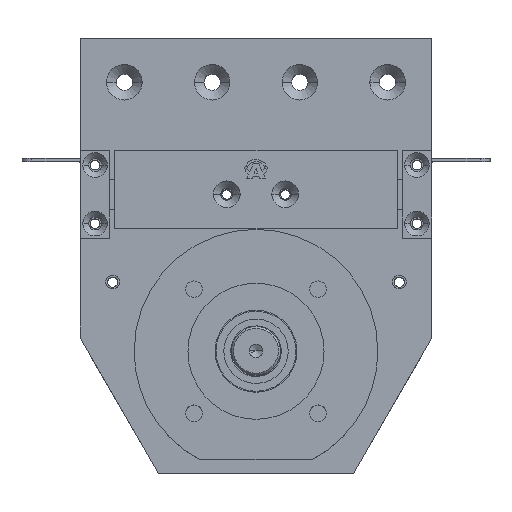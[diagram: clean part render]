
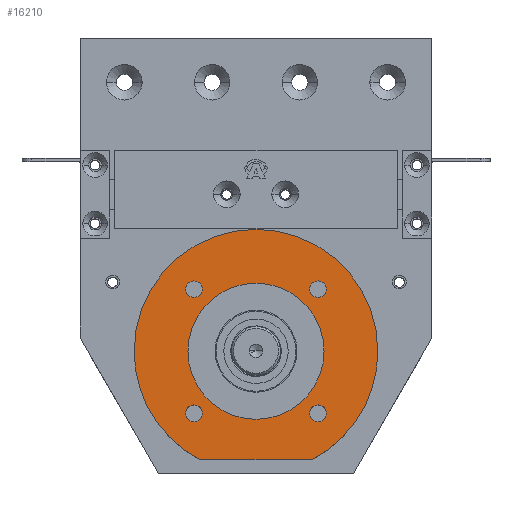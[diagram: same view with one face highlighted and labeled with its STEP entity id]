
A CAD part, top view. The second image highlights one B-rep face of the part: STEP entity #16210.
In plain terms, the highlighted planar face has unit normal (0, 0, 1) as drawn and (-1, 0, 0) by its records, which use the part's own axes.
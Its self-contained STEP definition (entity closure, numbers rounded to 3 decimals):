
#265 = DIRECTION ( 'NONE',  ( 1., 0., 0. ) ) ;
#381 = ORIENTED_EDGE ( 'NONE', *, *, #22552, .T. ) ;
#423 = ORIENTED_EDGE ( 'NONE', *, *, #15531, .T. ) ;
#436 = CARTESIAN_POINT ( 'NONE',  ( 2., 0., -62.5 ) ) ;
#698 = VERTEX_POINT ( 'NONE', #8233 ) ;
#721 = VERTEX_POINT ( 'NONE', #5303 ) ;
#856 = CIRCLE ( 'NONE', #19311, 62.5 ) ;
#899 = EDGE_LOOP ( 'NONE', ( #9958, #14965 ) ) ;
#944 = CIRCLE ( 'NONE', #18466, 4.25 ) ;
#1043 = CARTESIAN_POINT ( 'NONE',  ( 2., 31.82, 36.07 ) ) ;
#1300 = FACE_BOUND ( 'NONE', #5596, .T. ) ;
#1333 = ORIENTED_EDGE ( 'NONE', *, *, #18147, .T. ) ;
#1516 = CIRCLE ( 'NONE', #9856, 4.25 ) ;
#1545 = ORIENTED_EDGE ( 'NONE', *, *, #13523, .T. ) ;
#1752 = DIRECTION ( 'NONE',  ( -1., 0., 0. ) ) ;
#2007 = EDGE_CURVE ( 'NONE', #14707, #9752, #2672, .T. ) ;
#2129 = DIRECTION ( 'NONE',  ( -1., 0., 0. ) ) ;
#2437 = FACE_BOUND ( 'NONE', #899, .T. ) ;
#2620 = EDGE_CURVE ( 'NONE', #10116, #16750, #944, .T. ) ;
#2672 = LINE ( 'NONE', #16005, #10632 ) ;
#2694 = EDGE_CURVE ( 'NONE', #721, #698, #1516, .T. ) ;
#2989 = CARTESIAN_POINT ( 'NONE',  ( 2., -31.82, 36.07 ) ) ;
#3268 = DIRECTION ( 'NONE',  ( 0., 0., -1. ) ) ;
#3366 = CARTESIAN_POINT ( 'NONE',  ( 2., -55.5, -28.74 ) ) ;
#3588 = ORIENTED_EDGE ( 'NONE', *, *, #10323, .T. ) ;
#3825 = ORIENTED_EDGE ( 'NONE', *, *, #16964, .F. ) ;
#3980 = CARTESIAN_POINT ( 'NONE',  ( 2., 0., 34.9 ) ) ;
#4044 = VERTEX_POINT ( 'NONE', #9385 ) ;
#4168 = VERTEX_POINT ( 'NONE', #9774 ) ;
#4339 = CARTESIAN_POINT ( 'NONE',  ( 2., 31.82, -31.82 ) ) ;
#4634 = AXIS2_PLACEMENT_3D ( 'NONE', #11315, #18630, #20141 ) ;
#5303 = CARTESIAN_POINT ( 'NONE',  ( 2., 31.82, -27.57 ) ) ;
#5596 = EDGE_LOOP ( 'NONE', ( #10254, #11780 ) ) ;
#5635 = DIRECTION ( 'NONE',  ( 1., 0., 0. ) ) ;
#5771 = CIRCLE ( 'NONE', #20016, 4.25 ) ;
#5868 = VERTEX_POINT ( 'NONE', #3980 ) ;
#5956 = DIRECTION ( 'NONE',  ( 0., 0., 1. ) ) ;
#6070 = CARTESIAN_POINT ( 'NONE',  ( 2., 62.5, 0. ) ) ;
#6111 = CARTESIAN_POINT ( 'NONE',  ( 2., -55.5, 28.74 ) ) ;
#6160 = AXIS2_PLACEMENT_3D ( 'NONE', #9398, #14601, #16613 ) ;
#6165 = ORIENTED_EDGE ( 'NONE', *, *, #2007, .F. ) ;
#6266 = EDGE_CURVE ( 'NONE', #698, #721, #11721, .T. ) ;
#6306 = VERTEX_POINT ( 'NONE', #7694 ) ;
#7544 = DIRECTION ( 'NONE',  ( 0., 0., -1. ) ) ;
#7694 = CARTESIAN_POINT ( 'NONE',  ( 2., -31.82, -27.57 ) ) ;
#7866 = FACE_OUTER_BOUND ( 'NONE', #16873, .T. ) ;
#7906 = AXIS2_PLACEMENT_3D ( 'NONE', #9496, #20312, #9339 ) ;
#8233 = CARTESIAN_POINT ( 'NONE',  ( 2., 31.82, -36.07 ) ) ;
#8643 = DIRECTION ( 'NONE',  ( 0., 0., -1. ) ) ;
#8896 = VERTEX_POINT ( 'NONE', #436 ) ;
#8933 = CARTESIAN_POINT ( 'NONE',  ( 2., 0., -34.9 ) ) ;
#9047 = CARTESIAN_POINT ( 'NONE',  ( 2., -31.82, -31.82 ) ) ;
#9060 = DIRECTION ( 'NONE',  ( 0., 0., 1. ) ) ;
#9089 = CARTESIAN_POINT ( 'NONE',  ( 2., -31.82, 31.82 ) ) ;
#9339 = DIRECTION ( 'NONE',  ( 0., 0., 1. ) ) ;
#9385 = CARTESIAN_POINT ( 'NONE',  ( 2., -31.82, -36.07 ) ) ;
#9398 = CARTESIAN_POINT ( 'NONE',  ( 2., 0., 0. ) ) ;
#9496 = CARTESIAN_POINT ( 'NONE',  ( 2., 0., 0. ) ) ;
#9666 = DIRECTION ( 'NONE',  ( 1., 0., 0. ) ) ;
#9752 = VERTEX_POINT ( 'NONE', #3366 ) ;
#9774 = CARTESIAN_POINT ( 'NONE',  ( 2., 0., 62.5 ) ) ;
#9856 = AXIS2_PLACEMENT_3D ( 'NONE', #4339, #15269, #18632 ) ;
#9958 = ORIENTED_EDGE ( 'NONE', *, *, #6266, .T. ) ;
#10116 = VERTEX_POINT ( 'NONE', #17263 ) ;
#10254 = ORIENTED_EDGE ( 'NONE', *, *, #2620, .T. ) ;
#10323 = EDGE_CURVE ( 'NONE', #14707, #4168, #21596, .T. ) ;
#10524 = CIRCLE ( 'NONE', #4634, 4.25 ) ;
#10632 = VECTOR ( 'NONE', #8643, 1000. ) ;
#10789 = DIRECTION ( 'NONE',  ( 0., 0., -1. ) ) ;
#10957 = EDGE_LOOP ( 'NONE', ( #3825, #22554 ) ) ;
#11315 = CARTESIAN_POINT ( 'NONE',  ( 2., -31.82, 31.82 ) ) ;
#11636 = ORIENTED_EDGE ( 'NONE', *, *, #23128, .T. ) ;
#11721 = CIRCLE ( 'NONE', #15609, 4.25 ) ;
#11780 = ORIENTED_EDGE ( 'NONE', *, *, #13794, .T. ) ;
#11861 = AXIS2_PLACEMENT_3D ( 'NONE', #13044, #2129, #5956 ) ;
#12016 = ORIENTED_EDGE ( 'NONE', *, *, #19079, .T. ) ;
#13026 = CIRCLE ( 'NONE', #23041, 4.25 ) ;
#13044 = CARTESIAN_POINT ( 'NONE',  ( 2., 0., 0. ) ) ;
#13264 = CARTESIAN_POINT ( 'NONE',  ( 2., 31.82, 31.82 ) ) ;
#13321 = PLANE ( 'NONE',  #20454 ) ;
#13394 = DIRECTION ( 'NONE',  ( 0., 0., -1. ) ) ;
#13523 = EDGE_CURVE ( 'NONE', #4168, #8896, #856, .T. ) ;
#13794 = EDGE_CURVE ( 'NONE', #16750, #10116, #10524, .T. ) ;
#14095 = CIRCLE ( 'NONE', #7906, 34.9 ) ;
#14226 = EDGE_LOOP ( 'NONE', ( #423, #381 ) ) ;
#14601 = DIRECTION ( 'NONE',  ( -1., 0., 0. ) ) ;
#14707 = VERTEX_POINT ( 'NONE', #6111 ) ;
#14965 = ORIENTED_EDGE ( 'NONE', *, *, #2694, .T. ) ;
#15206 = CIRCLE ( 'NONE', #17700, 4.25 ) ;
#15269 = DIRECTION ( 'NONE',  ( 1., 0., 0. ) ) ;
#15531 = EDGE_CURVE ( 'NONE', #20203, #23365, #13026, .T. ) ;
#15609 = AXIS2_PLACEMENT_3D ( 'NONE', #22522, #9666, #16974 ) ;
#16005 = CARTESIAN_POINT ( 'NONE',  ( 2., -55.5, 28.74 ) ) ;
#16158 = FACE_BOUND ( 'NONE', #10957, .T. ) ;
#16210 = ADVANCED_FACE ( 'NONE', ( #19888, #1300, #20152, #2437, #16158, #7866 ), #13321, .F. ) ;
#16315 = CARTESIAN_POINT ( 'NONE',  ( 2., 31.82, 27.57 ) ) ;
#16613 = DIRECTION ( 'NONE',  ( 0., 0., 1. ) ) ;
#16750 = VERTEX_POINT ( 'NONE', #2989 ) ;
#16873 = EDGE_LOOP ( 'NONE', ( #3588, #1545, #11636, #6165 ) ) ;
#16964 = EDGE_CURVE ( 'NONE', #5868, #22975, #14095, .T. ) ;
#16974 = DIRECTION ( 'NONE',  ( 0., 0., -1. ) ) ;
#17263 = CARTESIAN_POINT ( 'NONE',  ( 2., -31.82, 27.57 ) ) ;
#17495 = CIRCLE ( 'NONE', #11861, 34.9 ) ;
#17700 = AXIS2_PLACEMENT_3D ( 'NONE', #18506, #5635, #10789 ) ;
#17781 = CARTESIAN_POINT ( 'NONE',  ( 2., 0., 0. ) ) ;
#18044 = CARTESIAN_POINT ( 'NONE',  ( 2., 31.82, 31.82 ) ) ;
#18147 = EDGE_CURVE ( 'NONE', #6306, #4044, #15206, .T. ) ;
#18210 = EDGE_CURVE ( 'NONE', #22975, #5868, #17495, .T. ) ;
#18466 = AXIS2_PLACEMENT_3D ( 'NONE', #9089, #265, #18558 ) ;
#18489 = DIRECTION ( 'NONE',  ( 0., 0., -1. ) ) ;
#18506 = CARTESIAN_POINT ( 'NONE',  ( 2., -31.82, -31.82 ) ) ;
#18558 = DIRECTION ( 'NONE',  ( 0., 0., -1. ) ) ;
#18630 = DIRECTION ( 'NONE',  ( 1., 0., 0. ) ) ;
#18632 = DIRECTION ( 'NONE',  ( 0., 0., -1. ) ) ;
#18803 = DIRECTION ( 'NONE',  ( 1., 0., 0. ) ) ;
#18855 = DIRECTION ( 'NONE',  ( 1., 0., 0. ) ) ;
#19079 = EDGE_CURVE ( 'NONE', #4044, #6306, #5771, .T. ) ;
#19311 = AXIS2_PLACEMENT_3D ( 'NONE', #17781, #23390, #19627 ) ;
#19512 = EDGE_LOOP ( 'NONE', ( #12016, #1333 ) ) ;
#19573 = CIRCLE ( 'NONE', #6160, 62.5 ) ;
#19627 = DIRECTION ( 'NONE',  ( 0., 0., 1. ) ) ;
#19888 = FACE_BOUND ( 'NONE', #19512, .T. ) ;
#20016 = AXIS2_PLACEMENT_3D ( 'NONE', #9047, #22038, #7544 ) ;
#20141 = DIRECTION ( 'NONE',  ( 0., 0., -1. ) ) ;
#20152 = FACE_BOUND ( 'NONE', #14226, .T. ) ;
#20203 = VERTEX_POINT ( 'NONE', #16315 ) ;
#20312 = DIRECTION ( 'NONE',  ( -1., 0., 0. ) ) ;
#20454 = AXIS2_PLACEMENT_3D ( 'NONE', #6070, #18855, #13394 ) ;
#20611 = CARTESIAN_POINT ( 'NONE',  ( 2., 0., 0. ) ) ;
#20973 = AXIS2_PLACEMENT_3D ( 'NONE', #20611, #1752, #9060 ) ;
#21596 = CIRCLE ( 'NONE', #20973, 62.5 ) ;
#21660 = DIRECTION ( 'NONE',  ( 1., 0., 0. ) ) ;
#22038 = DIRECTION ( 'NONE',  ( 1., 0., 0. ) ) ;
#22522 = CARTESIAN_POINT ( 'NONE',  ( 2., 31.82, -31.82 ) ) ;
#22552 = EDGE_CURVE ( 'NONE', #23365, #20203, #23343, .T. ) ;
#22554 = ORIENTED_EDGE ( 'NONE', *, *, #18210, .F. ) ;
#22975 = VERTEX_POINT ( 'NONE', #8933 ) ;
#23041 = AXIS2_PLACEMENT_3D ( 'NONE', #18044, #21660, #3268 ) ;
#23128 = EDGE_CURVE ( 'NONE', #8896, #9752, #19573, .T. ) ;
#23343 = CIRCLE ( 'NONE', #23456, 4.25 ) ;
#23365 = VERTEX_POINT ( 'NONE', #1043 ) ;
#23390 = DIRECTION ( 'NONE',  ( -1., 0., 0. ) ) ;
#23456 = AXIS2_PLACEMENT_3D ( 'NONE', #13264, #18803, #18489 ) ;
